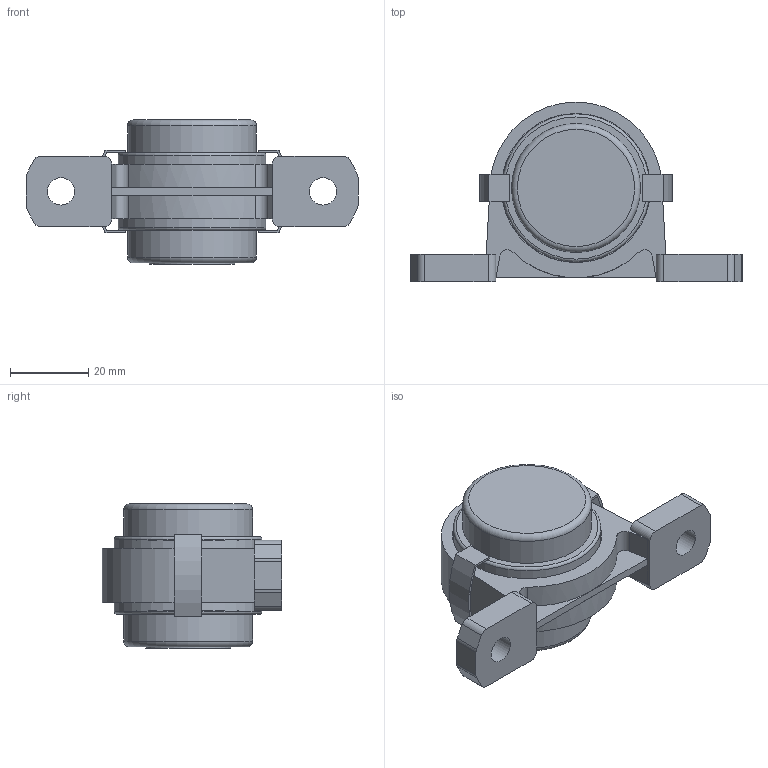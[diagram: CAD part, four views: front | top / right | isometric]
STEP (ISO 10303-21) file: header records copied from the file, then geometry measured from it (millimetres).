
FILE_DESCRIPTION((''),'2;1');
FILE_NAME('\\Ts-tgl068\j-cad-d-base\00.3DCADデータ作成フォルダ\11.エコシリーズ\MUSP000\MUSP003E.stp','2014-11-12T09:23:08',('btec_1106_2'),(''),'Autodesk Inventor 2012','Autodesk Inventor 2012','');
FILE_SCHEMA(('AUTOMOTIVE_DESIGN { 1 0 10303 214 1 1 1 1 }'));
Length unit declared in the file: millimetre
Products named in the file (6): MUSP000C; SP003; U003; 003CPE; 3CLP; 003CP17
Assembly tree (6 placements, depth 2):
  MUSP000C
    SP003
    U003
    003CPE
    3CLP  x2
    003CP17
Bounding box: 85 x 46 x 36.9 mm (x, y, z)
Volume: 25946.7 mm3; surface area: 23044.7 mm2
Topology: 6 solids, 6 shells, 130 faces, 298 edges, 193 vertices
Faces by surface type: plane 72, cylinder 45, torus 8, cone 3, sphere 2
Full cylindrical faces by diameter (mm): 3.242 x1, 3.5 x1, 7 x2, 17 x2, 21.8 x2, 23.1 x1, 25 x1, 32.4 x2, 33 x2, 37.2 x2, 37.8 x2, 38.2 x2
Entity records: 3450 total; most frequent: CARTESIAN_POINT 664, DIRECTION 586, ORIENTED_EDGE 460, AXIS2_PLACEMENT_3D 230, EDGE_CURVE 230, EDGE_LOOP 180, VERTEX_POINT 168, VECTOR 126
